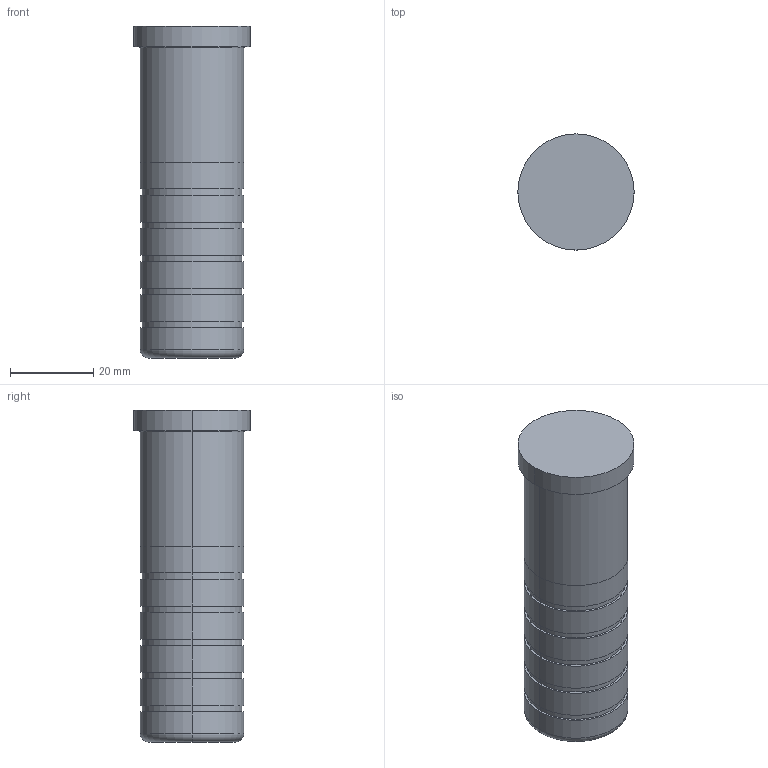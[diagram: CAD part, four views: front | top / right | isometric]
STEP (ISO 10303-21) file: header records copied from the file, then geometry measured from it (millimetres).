
FILE_DESCRIPTION(/* description */ (''),/* implementation_level */ '2;1');
FILE_NAME(/* name */ '3d_sgoh25-80_05201_r00.stp',/* time_stamp */ '2011-01-10T14:11:08+09:00',/* author */ ('MISUMI'),/* organization */ (''),/* preprocessor_version */ 'ST-DEVELOPER v11',/* originating_system */ 'UGS - NX 5.0',/* authorisation */ '');
FILE_SCHEMA (('CONFIG_CONTROL_DESIGN'));
Length unit declared in the file: millimetre
Products named in the file (1): 3d_sgoh25-80_05201_r00
Bounding box: 28 x 28 x 80 mm (x, y, z)
Volume: 39541.7 mm3; surface area: 7845.5 mm2
Topology: 1 solids, 1 shells, 43 faces, 84 edges, 54 vertices
Faces by surface type: cylinder 26, plane 13, torus 4
Entity records: 1214 total; most frequent: DIRECTION 230, CARTESIAN_POINT 182, ORIENTED_EDGE 168, AXIS2_PLACEMENT_3D 102, EDGE_CURVE 84, CIRCLE 58, EDGE_LOOP 54, VERTEX_POINT 54
